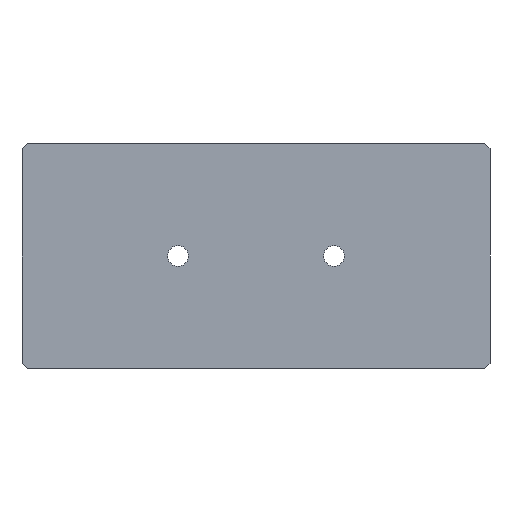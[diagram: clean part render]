
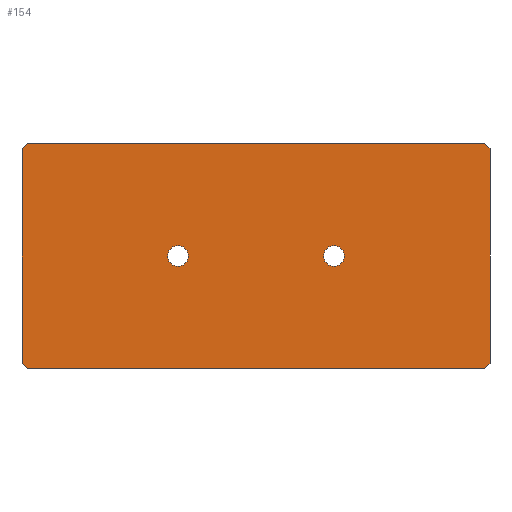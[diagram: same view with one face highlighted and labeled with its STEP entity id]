
A CAD part, front view. The second image highlights one B-rep face of the part: STEP entity #154.
In plain terms, the highlighted planar face has unit normal (0, -1, 0).
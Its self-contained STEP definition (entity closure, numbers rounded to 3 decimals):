
#16 = ORIENTED_EDGE ( 'NONE', *, *, #229, .T. ) ;
#20 = CARTESIAN_POINT ( 'NONE',  ( -90., -15., -71. ) ) ;
#24 = VERTEX_POINT ( 'NONE', #641 ) ;
#28 = VERTEX_POINT ( 'NONE', #535 ) ;
#40 = DIRECTION ( 'NONE',  ( 0., 0., -1. ) ) ;
#46 = CARTESIAN_POINT ( 'NONE',  ( -270., -15., -130. ) ) ;
#50 = ORIENTED_EDGE ( 'NONE', *, *, #423, .T. ) ;
#54 = VERTEX_POINT ( 'NONE', #531 ) ;
#62 = DIRECTION ( 'NONE',  ( 0., 0., 1. ) ) ;
#65 = CARTESIAN_POINT ( 'NONE',  ( -90., -15., -65. ) ) ;
#68 = EDGE_LOOP ( 'NONE', ( #419, #50 ) ) ;
#80 = DIRECTION ( 'NONE',  ( 0.707, 0., -0.707 ) ) ;
#83 = EDGE_CURVE ( 'NONE', #276, #28, #284, .T. ) ;
#105 = EDGE_LOOP ( 'NONE', ( #532, #474, #221, #138, #596, #377, #585, #16 ) ) ;
#109 = EDGE_CURVE ( 'NONE', #461, #259, #645, .T. ) ;
#117 = DIRECTION ( 'NONE',  ( -0.707, 0., -0.707 ) ) ;
#131 = LINE ( 'NONE', #604, #661 ) ;
#133 = EDGE_CURVE ( 'NONE', #303, #543, #131, .T. ) ;
#135 = CARTESIAN_POINT ( 'NONE',  ( 0., -15., 0. ) ) ;
#138 = ORIENTED_EDGE ( 'NONE', *, *, #542, .T. ) ;
#143 = DIRECTION ( 'NONE',  ( -1., 0., 0. ) ) ;
#147 = VECTOR ( 'NONE', #143, 1000. ) ;
#150 = CIRCLE ( 'NONE', #536, 6. ) ;
#151 = CARTESIAN_POINT ( 'NONE',  ( -90., -15., -59. ) ) ;
#154 = ADVANCED_FACE ( 'NONE', ( #500, #190, #324 ), #372, .T. ) ;
#156 = CARTESIAN_POINT ( 'NONE',  ( -1.5, -15., -1.5 ) ) ;
#158 = EDGE_CURVE ( 'NONE', #259, #183, #486, .T. ) ;
#163 = VECTOR ( 'NONE', #453, 1000. ) ;
#165 = DIRECTION ( 'NONE',  ( 0., 0., 1. ) ) ;
#166 = CARTESIAN_POINT ( 'NONE',  ( -270., -15., -3. ) ) ;
#183 = VERTEX_POINT ( 'NONE', #426 ) ;
#186 = CARTESIAN_POINT ( 'NONE',  ( -133.5, -15., 133.5 ) ) ;
#190 = FACE_BOUND ( 'NONE', #68, .T. ) ;
#203 = LINE ( 'NONE', #135, #147 ) ;
#221 = ORIENTED_EDGE ( 'NONE', *, *, #158, .T. ) ;
#222 = AXIS2_PLACEMENT_3D ( 'NONE', #613, #311, #40 ) ;
#226 = CARTESIAN_POINT ( 'NONE',  ( -267., -15., 0. ) ) ;
#229 = EDGE_CURVE ( 'NONE', #610, #24, #443, .T. ) ;
#246 = VECTOR ( 'NONE', #117, 1000. ) ;
#249 = LINE ( 'NONE', #382, #502 ) ;
#259 = VERTEX_POINT ( 'NONE', #166 ) ;
#276 = VERTEX_POINT ( 'NONE', #748 ) ;
#284 = CIRCLE ( 'NONE', #296, 6. ) ;
#290 = EDGE_LOOP ( 'NONE', ( #520, #295 ) ) ;
#295 = ORIENTED_EDGE ( 'NONE', *, *, #730, .T. ) ;
#296 = AXIS2_PLACEMENT_3D ( 'NONE', #697, #349, #412 ) ;
#303 = VERTEX_POINT ( 'NONE', #744 ) ;
#310 = AXIS2_PLACEMENT_3D ( 'NONE', #65, #462, #651 ) ;
#311 = DIRECTION ( 'NONE',  ( 0., -1., 0. ) ) ;
#324 = FACE_OUTER_BOUND ( 'NONE', #105, .T. ) ;
#325 = EDGE_CURVE ( 'NONE', #54, #303, #567, .T. ) ;
#344 = VECTOR ( 'NONE', #80, 1000. ) ;
#349 = DIRECTION ( 'NONE',  ( 0., 1., 0. ) ) ;
#354 = EDGE_CURVE ( 'NONE', #642, #479, #150, .T. ) ;
#372 = PLANE ( 'NONE',  #222 ) ;
#377 = ORIENTED_EDGE ( 'NONE', *, *, #133, .T. ) ;
#379 = DIRECTION ( 'NONE',  ( 0., 0., -1. ) ) ;
#382 = CARTESIAN_POINT ( 'NONE',  ( 0., -15., -130. ) ) ;
#385 = VECTOR ( 'NONE', #631, 1000. ) ;
#412 = DIRECTION ( 'NONE',  ( 0., 0., 1. ) ) ;
#419 = ORIENTED_EDGE ( 'NONE', *, *, #354, .T. ) ;
#423 = EDGE_CURVE ( 'NONE', #479, #642, #671, .T. ) ;
#426 = CARTESIAN_POINT ( 'NONE',  ( -270., -15., -127. ) ) ;
#442 = CARTESIAN_POINT ( 'NONE',  ( -180., -15., -65. ) ) ;
#443 = LINE ( 'NONE', #156, #385 ) ;
#453 = DIRECTION ( 'NONE',  ( 1., 0., 0. ) ) ;
#461 = VERTEX_POINT ( 'NONE', #226 ) ;
#462 = DIRECTION ( 'NONE',  ( 0., 1., 0. ) ) ;
#467 = VECTOR ( 'NONE', #379, 1000. ) ;
#474 = ORIENTED_EDGE ( 'NONE', *, *, #109, .T. ) ;
#479 = VERTEX_POINT ( 'NONE', #20 ) ;
#482 = EDGE_CURVE ( 'NONE', #24, #461, #203, .T. ) ;
#485 = DIRECTION ( 'NONE',  ( 0., 0., 1. ) ) ;
#486 = LINE ( 'NONE', #663, #467 ) ;
#488 = CARTESIAN_POINT ( 'NONE',  ( -198.5, -15., -198.5 ) ) ;
#500 = FACE_BOUND ( 'NONE', #290, .T. ) ;
#502 = VECTOR ( 'NONE', #485, 1000. ) ;
#520 = ORIENTED_EDGE ( 'NONE', *, *, #83, .T. ) ;
#524 = CIRCLE ( 'NONE', #625, 6. ) ;
#531 = CARTESIAN_POINT ( 'NONE',  ( -267., -15., -130. ) ) ;
#532 = ORIENTED_EDGE ( 'NONE', *, *, #482, .T. ) ;
#535 = CARTESIAN_POINT ( 'NONE',  ( -180., -15., -71. ) ) ;
#536 = AXIS2_PLACEMENT_3D ( 'NONE', #709, #691, #62 ) ;
#542 = EDGE_CURVE ( 'NONE', #183, #54, #607, .T. ) ;
#543 = VERTEX_POINT ( 'NONE', #612 ) ;
#567 = LINE ( 'NONE', #46, #163 ) ;
#585 = ORIENTED_EDGE ( 'NONE', *, *, #601, .T. ) ;
#596 = ORIENTED_EDGE ( 'NONE', *, *, #325, .T. ) ;
#601 = EDGE_CURVE ( 'NONE', #543, #610, #249, .T. ) ;
#604 = CARTESIAN_POINT ( 'NONE',  ( 63.5, -15., -63.5 ) ) ;
#607 = LINE ( 'NONE', #488, #344 ) ;
#610 = VERTEX_POINT ( 'NONE', #657 ) ;
#612 = CARTESIAN_POINT ( 'NONE',  ( 0., -15., -127. ) ) ;
#613 = CARTESIAN_POINT ( 'NONE',  ( 0., -15., 0. ) ) ;
#625 = AXIS2_PLACEMENT_3D ( 'NONE', #442, #746, #165 ) ;
#631 = DIRECTION ( 'NONE',  ( -0.707, 0., 0.707 ) ) ;
#641 = CARTESIAN_POINT ( 'NONE',  ( -3., -15., 0. ) ) ;
#642 = VERTEX_POINT ( 'NONE', #151 ) ;
#645 = LINE ( 'NONE', #186, #246 ) ;
#651 = DIRECTION ( 'NONE',  ( 0., 0., 1. ) ) ;
#657 = CARTESIAN_POINT ( 'NONE',  ( 0., -15., -3. ) ) ;
#661 = VECTOR ( 'NONE', #727, 1000. ) ;
#663 = CARTESIAN_POINT ( 'NONE',  ( -270., -15., 0. ) ) ;
#671 = CIRCLE ( 'NONE', #310, 6. ) ;
#691 = DIRECTION ( 'NONE',  ( 0., 1., 0. ) ) ;
#697 = CARTESIAN_POINT ( 'NONE',  ( -180., -15., -65. ) ) ;
#709 = CARTESIAN_POINT ( 'NONE',  ( -90., -15., -65. ) ) ;
#727 = DIRECTION ( 'NONE',  ( 0.707, 0., 0.707 ) ) ;
#730 = EDGE_CURVE ( 'NONE', #28, #276, #524, .T. ) ;
#744 = CARTESIAN_POINT ( 'NONE',  ( -3., -15., -130. ) ) ;
#746 = DIRECTION ( 'NONE',  ( 0., 1., 0. ) ) ;
#748 = CARTESIAN_POINT ( 'NONE',  ( -180., -15., -59. ) ) ;
